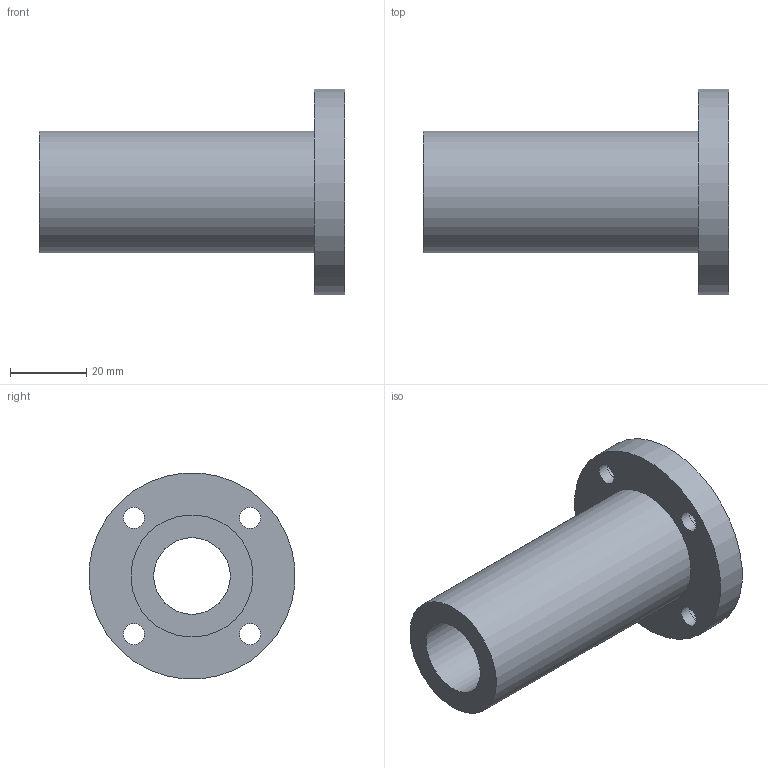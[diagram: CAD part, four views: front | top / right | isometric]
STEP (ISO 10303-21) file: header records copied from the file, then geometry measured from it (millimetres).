
FILE_DESCRIPTION(/* description */ (''),/* implementation_level */ '2;1');
FILE_NAME(/* name */ 'LMF20LUU',/* time_stamp */ '2019-07-03T10:02:51+02:00',/* author */ ('VĂ©gh MĂˇtĂ©'),/* organization */ ('Bearing Kft'),/* preprocessor_version */ 'ST-DEVELOPER v16.7',/* originating_system */ 'DEX',/* authorisation */ $);
FILE_SCHEMA (('AUTOMOTIVE_DESIGN {1 0 10303 214 3 1 1}'));
Length unit declared in the file: millimetre
Products named in the file (1): LMF20LUU
Bounding box: 80 x 53.79 x 53.79 mm (x, y, z)
Volume: 49517.9 mm3; surface area: 18183.7 mm2
Topology: 1 solids, 1 shells, 322 faces, 804 edges, 536 vertices
Faces by surface type: plane 250, bspline 59, cylinder 13
Full cylindrical faces by diameter (mm): 5.5 x4, 9 x4, 20 x1, 32 x1, 54 x1
Entity records: 12414 total; most frequent: CARTESIAN_POINT 5082, ORIENTED_EDGE 1580, DIRECTION 1226, EDGE_CURVE 790, LINE 646, VECTOR 646, VERTEX_POINT 536, EDGE_LOOP 398
